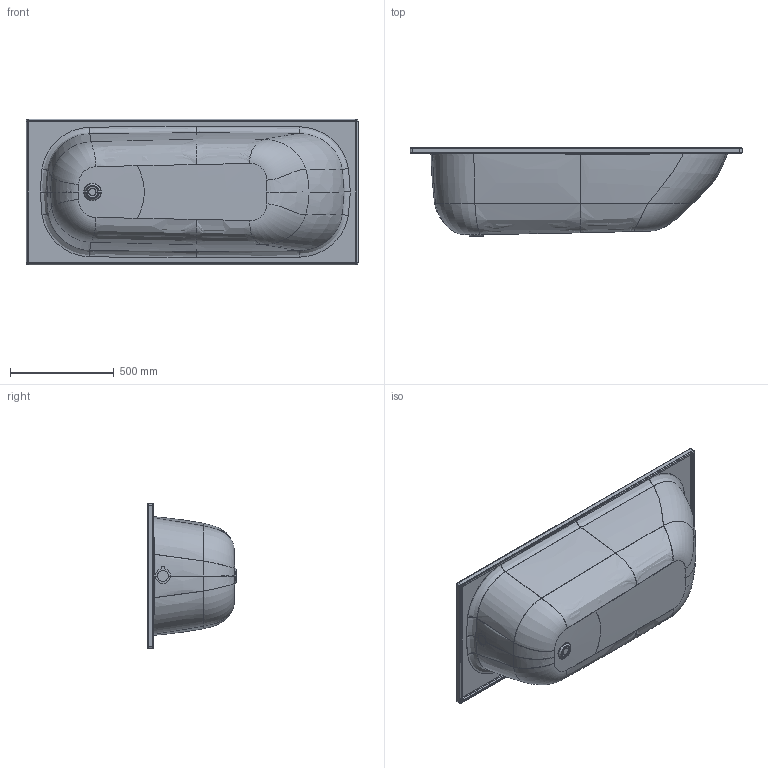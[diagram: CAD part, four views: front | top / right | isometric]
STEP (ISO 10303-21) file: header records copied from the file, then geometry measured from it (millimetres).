
FILE_DESCRIPTION((' '),'2;1');
FILE_NAME( '177da2b77a96b6c3.stp', '2021-02-25T18:10:17', (' '), ('--- Datakit www.datakit.com---'), ' Datakit CrossCadWare V2021.1 Jan 6 2021', 'DATAKIT 2021 (c)', ' ');
FILE_SCHEMA(('CONFIG_CONTROL_DESIGN'));
Length unit declared in the file: millimetre
Products named in the file (1): 17501c5f7c747cc3
Bounding box: 1600 x 430 x 700 mm (x, y, z)
Volume: 5578772.2 mm3; surface area: 4452268.4 mm2
Topology: 3 solids, 3 shells, 173 faces, 402 edges, 236 vertices
Faces by surface type: bspline 52, cylinder 34, torus 32, plane 27, offset 24, cone 4
Full cylindrical faces by diameter (mm): 35 x1, 52 x2
Entity records: 62945 total; most frequent: CARTESIAN_POINT 59569, ORIENTED_EDGE 764, DIRECTION 532, EDGE_CURVE 382, VERTEX_POINT 232, AXIS2_PLACEMENT_3D 226, EDGE_LOOP 193, B_SPLINE_CURVE_WITH_KNOTS 174
